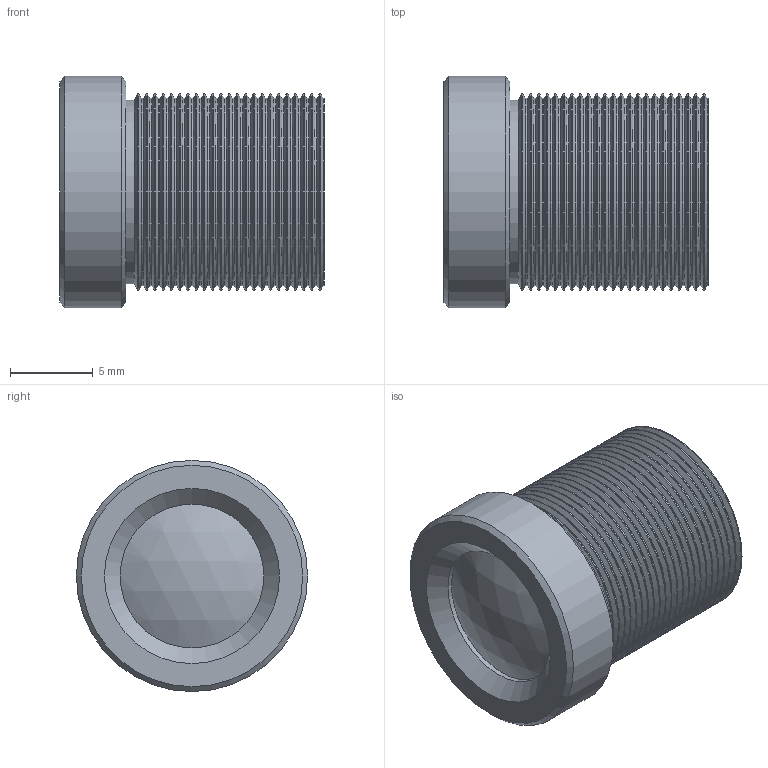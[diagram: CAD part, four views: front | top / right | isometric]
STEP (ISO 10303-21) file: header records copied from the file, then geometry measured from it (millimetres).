
FILE_DESCRIPTION (( 'STEP AP214' ), '1' );
FILE_NAME ('AB16-L.STEP', '2025-08-21T00:17:39', ( '' ), ( '' ), 'SwSTEP 2.0', 'SolidWorks 2023', '' );
FILE_SCHEMA (( 'AUTOMOTIVE_DESIGN' ));
Length unit declared in the file: millimetre
Products named in the file (1): AB16-L
Bounding box: 15.99 x 14 x 14 mm (x, y, z)
Volume: 1534.6 mm3; surface area: 1338.1 mm2
Topology: 1 solids, 1 shells, 106 faces, 205 edges, 105 vertices
Faces by surface type: cylinder 51, cone 49, plane 4, sphere 2
Full cylindrical faces by diameter (mm): 6 x1, 8.7 x1, 9.5 x1, 11.134 x1, 11.334 x23, 11.9 x23, 14 x1
Entity records: 2137 total; most frequent: DIRECTION 424, CARTESIAN_POINT 317, AXIS2_PLACEMENT_3D 212, ORIENTED_EDGE 210, EDGE_LOOP 210, FACE_OUTER_BOUND 157, ADVANCED_FACE 106, VERTEX_POINT 105
